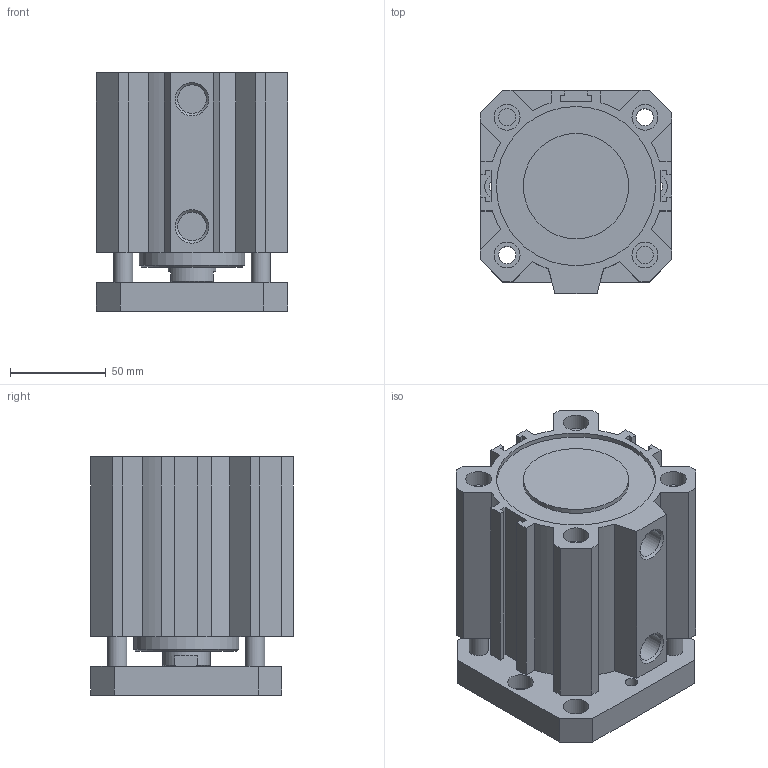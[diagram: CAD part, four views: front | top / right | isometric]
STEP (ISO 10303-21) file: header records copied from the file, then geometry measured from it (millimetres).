
FILE_DESCRIPTION(/* description */ (''),/* implementation_level */ '2;1');
FILE_NAME(/* name */ 'I:\Area Tecnica\Disegni\VARIE-3D\Componenti\1500\Ø80\15##_80_####_#\1501_80_0050_AR.stp',/* time_stamp */ '2016-08-24T14:12:44+02:00',/* author */ ('Maniean1'),/* organization */ ('Pneumax S.p.A.'),/* preprocessor_version */ 'ST-DEVELOPER v15.2',/* originating_system */ 'Autodesk Inventor 2014',/* authorisation */ '');
FILE_SCHEMA (('AUTOMOTIVE_DESIGN { 1 0 10303 214 3 1 1 }'));
Length unit declared in the file: millimetre
Products named in the file (3): C_1501_80_0050_AR; S_1501_80_0050_AR; 1501_80_0050_AR
Bounding box: 100 x 106 x 124.5 mm (x, y, z)
Volume: 698429.9 mm3; surface area: 162745.5 mm2
Topology: 2 solids, 2 shells, 139 faces, 341 edges, 228 vertices
Faces by surface type: plane 94, cylinder 40, cone 5
Full cylindrical faces by diameter (mm): 6.647 x2, 8.5 x2, 9 x4, 10 x4, 13.5 x10, 14.95 x2, 25 x2, 55 x2, 80 x2, 83.2 x2
Entity records: 4083 total; most frequent: CARTESIAN_POINT 674, DIRECTION 672, ORIENTED_EDGE 600, EDGE_CURVE 300, AXIS2_PLACEMENT_3D 232, VERTEX_POINT 222, EDGE_LOOP 216, LINE 208
